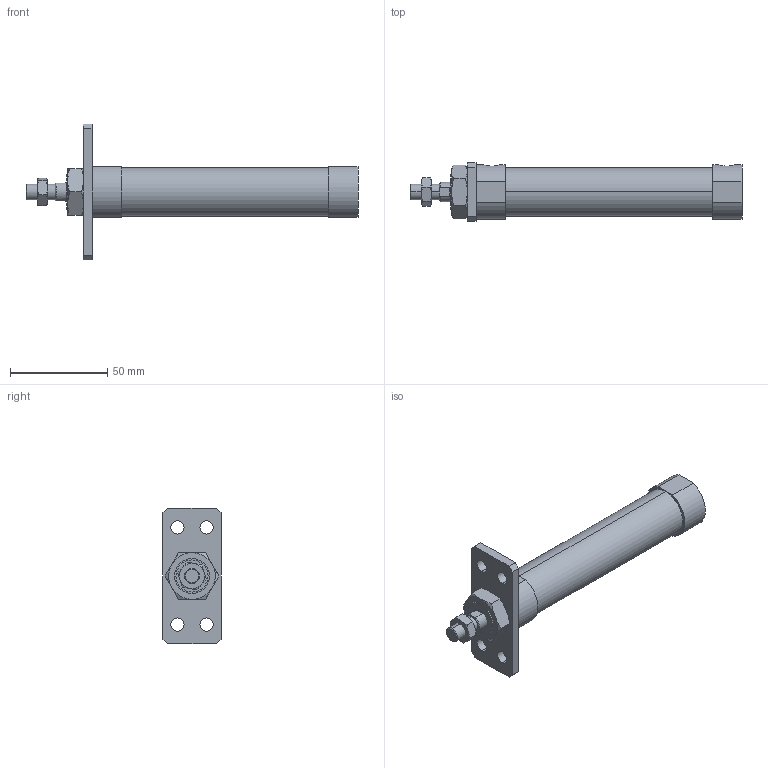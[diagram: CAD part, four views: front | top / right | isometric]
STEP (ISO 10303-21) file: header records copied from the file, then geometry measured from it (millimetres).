
FILE_DESCRIPTION (( 'STEP AP203' ), '1' );
FILE_NAME ('JGND2-20-75-A.STEP', '2016-08-04T02:24:13', ( '' ), ( '' ), 'SwSTEP 2.0', 'SolidWorks 2014', '' );
FILE_SCHEMA (( 'CONFIG_CONTROL_DESIGN' ));
Length unit declared in the file: millimetre
Products named in the file (5): J#2-20-A; J#2-20-75(P); JGND2-20-75-A
Assembly tree (4 placements, depth 2):
  JGND2-20-75-A
    J#2-20-75(P)
    (unnamed)
    (unnamed)
    J#2-20-A
Bounding box: 171 x 30 x 70 mm (x, y, z)
Volume: 83871.7 mm3; surface area: 21453.6 mm2
Topology: 4 solids, 4 shells, 104 faces, 236 edges, 148 vertices
Faces by surface type: plane 44, cylinder 32, torus 24, cone 4
Entity records: 3803 total; most frequent: CARTESIAN_POINT 951, DIRECTION 494, ORIENTED_EDGE 472, EDGE_CURVE 236, AXIS2_PLACEMENT_3D 203, VERTEX_POINT 148, EDGE_LOOP 126, ADVANCED_FACE 104
